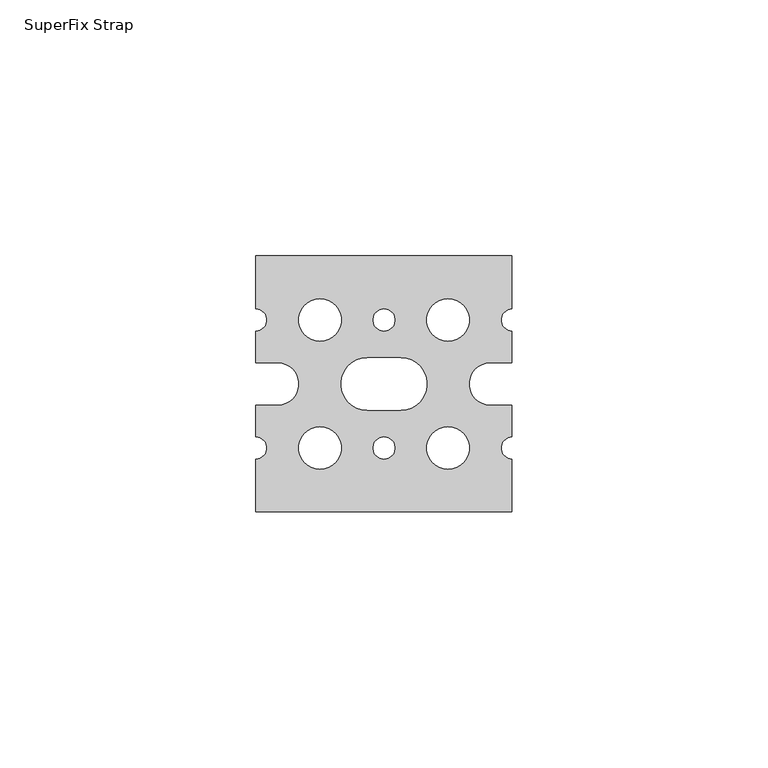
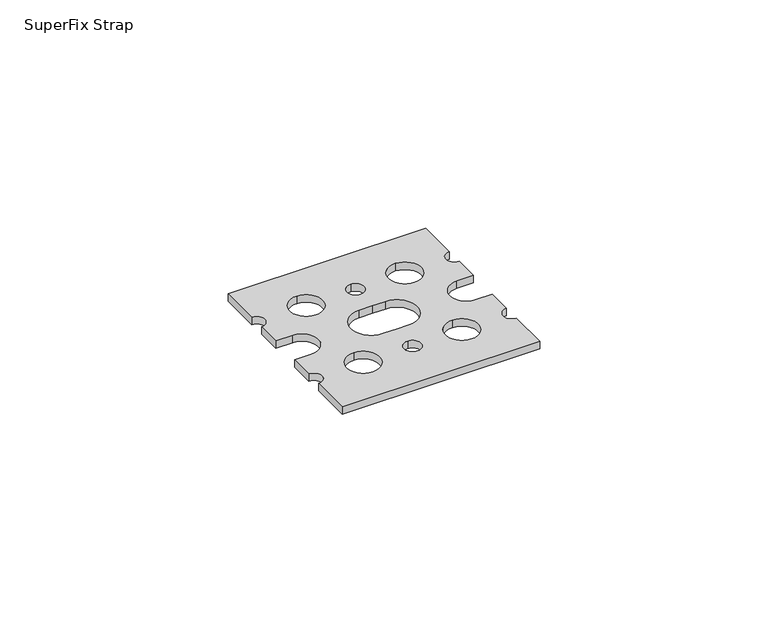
"""IFC4 building model written with IfcOpenShell, lengths in millimetres: valve geometry, Superfix Strap : SuperFix Strap."""

from ifc_helpers import new_model, si_unit, point, frame_2d, origin, origin_with_axes, place, context, project, spatial, polyline, circle_curve, trimmed, segment, composite_curve, outline, extrude, source, transform, mapped, element, save


def superfix_strap_0810b350(model_context):
    return source(origin(), model_context, "Body", "SweptSolid", [
        extrude(outline(composite_curve([segment(polyline([(25.0, -25.0), (-25.0, -25.0), (-25.0, -14.65)]), True, "CONTINUOUS"), segment(trimmed(circle_curve(frame_2d((-25.0, -12.5)), 2.15), [point((-25.0, -14.65))], [point((-25.0, -10.35))], True, "CARTESIAN"), True, "CONTINUOUS"), segment(polyline([(-25.0, -10.35), (-25.0, -4.15), (-20.75, -4.15)]), True, "CONTINUOUS"), segment(trimmed(circle_curve(frame_2d((-20.75, 0.0)), 4.15), [point((-20.75, -4.15))], [point((-20.75, 4.15))], True, "CARTESIAN"), True, "CONTINUOUS"), segment(polyline([(-20.75, 4.15), (-25.0, 4.15), (-25.0, 10.35)]), True, "CONTINUOUS"), segment(trimmed(circle_curve(frame_2d((-25.0, 12.5)), 2.15), [point((-25.0, 10.35))], [point((-25.0, 14.65))], True, "CARTESIAN"), True, "CONTINUOUS"), segment(polyline([(-25.0, 14.65), (-25.0, 25.0), (25.0, 25.0), (25.0, 14.65)]), True, "CONTINUOUS"), segment(trimmed(circle_curve(frame_2d((25.0, 12.5)), 2.15), [point((25.0, 14.65))], [point((25.0, 10.35))], True, "CARTESIAN"), True, "CONTINUOUS"), segment(polyline([(25.0, 10.35), (25.0, 4.15), (20.75, 4.15)]), True, "CONTINUOUS"), segment(trimmed(circle_curve(frame_2d((20.75, 0.0)), 4.15), [point((20.75, 4.15))], [point((20.75, -4.15))], True, "CARTESIAN"), True, "CONTINUOUS"), segment(polyline([(20.75, -4.15), (25.0, -4.15), (25.0, -10.35)]), True, "CONTINUOUS"), segment(trimmed(circle_curve(frame_2d((25.0, -12.5)), 2.15), [point((25.0, -10.35))], [point((25.0, -14.65))], True, "CARTESIAN"), True, "CONTINUOUS"), segment(polyline([(25.0, -14.65), (25.0, -25.0)]), True, "CONTINUOUS")], self_intersect=False), holes=[composite_curve([segment(polyline([(0.0, 5.15), (-3.25, 5.15)]), True, "CONTINUOUS"), segment(trimmed(circle_curve(frame_2d((-3.25, 0.0)), 5.15), [point((-3.25, 5.15))], [point((-3.25, -5.15))], True, "CARTESIAN"), True, "CONTINUOUS"), segment(polyline([(-3.25, -5.15), (0.0, -5.15), (3.25, -5.15)]), True, "CONTINUOUS"), segment(trimmed(circle_curve(frame_2d((3.25, 0.0)), 5.15), [point((3.25, -5.15))], [point((3.25, 5.15))], True, "CARTESIAN"), True, "CONTINUOUS"), segment(polyline([(3.25, 5.15), (0.0, 5.15)]), True, "CONTINUOUS")], self_intersect=False), composite_curve([segment(trimmed(circle_curve(frame_2d((0.0, 12.5)), 2.15), [point((0.0, 14.65))], [point((0.0, 10.35))], True, "CARTESIAN"), True, "CONTINUOUS"), segment(trimmed(circle_curve(frame_2d((0.0, 12.5)), 2.15), [point((0.0, 10.35))], [point((0.0, 14.65))], True, "CARTESIAN"), True, "CONTINUOUS")], self_intersect=False), composite_curve([segment(trimmed(circle_curve(frame_2d((0.0, -12.5)), 2.15), [point((0.0, -10.35))], [point((0.0, -14.65))], True, "CARTESIAN"), True, "CONTINUOUS"), segment(trimmed(circle_curve(frame_2d((0.0, -12.5)), 2.15), [point((0.0, -14.65))], [point((0.0, -10.35))], True, "CARTESIAN"), True, "CONTINUOUS")], self_intersect=False), composite_curve([segment(trimmed(circle_curve(frame_2d((12.5, 12.5)), 4.15), [point((12.5, 16.65))], [point((12.5, 8.35))], True, "CARTESIAN"), True, "CONTINUOUS"), segment(trimmed(circle_curve(frame_2d((12.5, 12.5)), 4.15), [point((12.5, 8.35))], [point((12.5, 16.65))], True, "CARTESIAN"), True, "CONTINUOUS")], self_intersect=False), composite_curve([segment(trimmed(circle_curve(frame_2d((12.5, -12.5)), 4.15), [point((12.5, -8.35))], [point((12.5, -16.65))], True, "CARTESIAN"), True, "CONTINUOUS"), segment(trimmed(circle_curve(frame_2d((12.5, -12.5)), 4.15), [point((12.5, -16.65))], [point((12.5, -8.35))], True, "CARTESIAN"), True, "CONTINUOUS")], self_intersect=False), composite_curve([segment(trimmed(circle_curve(frame_2d((-12.5, 12.5)), 4.15), [point((-12.5, 16.65))], [point((-12.5, 8.35))], True, "CARTESIAN"), True, "CONTINUOUS"), segment(trimmed(circle_curve(frame_2d((-12.5, 12.5)), 4.15), [point((-12.5, 8.35))], [point((-12.5, 16.65))], True, "CARTESIAN"), True, "CONTINUOUS")], self_intersect=False), composite_curve([segment(trimmed(circle_curve(frame_2d((-12.5, -12.5)), 4.15), [point((-12.5, -8.35))], [point((-12.5, -16.65))], True, "CARTESIAN"), True, "CONTINUOUS"), segment(trimmed(circle_curve(frame_2d((-12.5, -12.5)), 4.15), [point((-12.5, -16.65))], [point((-12.5, -8.35))], True, "CARTESIAN"), True, "CONTINUOUS")], self_intersect=False)]), origin_with_axes(), (0.0, 0.0, 1.0), 2.0),
    ])


if __name__ == "__main__":
    model = new_model("IFC4")
    model_context = context("Model", 3, world=origin())
    ifc_project = project(units=[si_unit("LENGTHUNIT", "METRE", prefix="MILLI")], contexts=[model_context])
    site = spatial("IfcSite", under=ifc_project)
    building = spatial("IfcBuilding", under=site)
    placement = place(None, origin())
    superfix_strap_shape = superfix_strap_0810b350(model_context)
    element("IfcValve", 1, ObjectType="Superfix Strap : SuperFix Strap", at=placement, inside=building, context=model_context, shape_type="MappedRepresentation", body=[
        mapped(superfix_strap_shape, transform((0.0, 0.0, 0.0), x_axis=(1.0, 0.0, 0.0), y_axis=(0.0, 1.0, 0.0), z_axis=(0.0, 0.0, 1.0))),
    ])
    save(model, "model.ifc")
